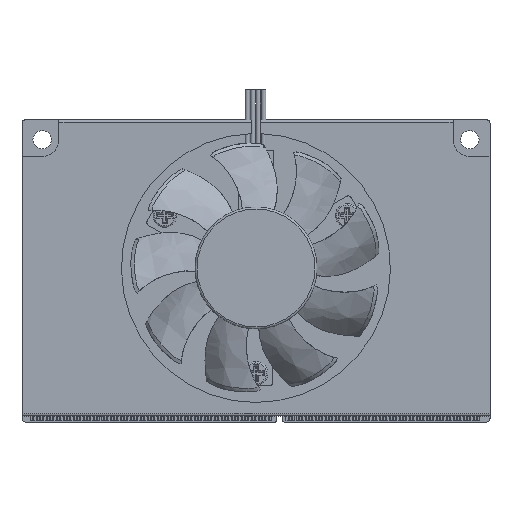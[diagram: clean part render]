
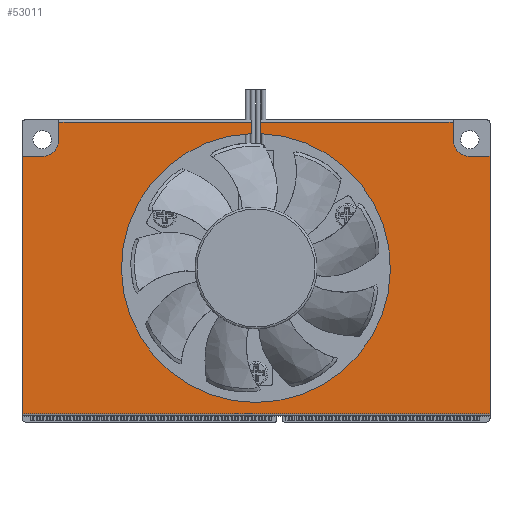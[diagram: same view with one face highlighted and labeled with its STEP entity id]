
A CAD part, top view. The second image highlights one B-rep face of the part: STEP entity #53011.
In plain terms, the highlighted planar face has unit normal (0, 0, 1).
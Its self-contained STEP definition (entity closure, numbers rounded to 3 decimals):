
#2113=CIRCLE('',#56883,2.5);
#2114=CIRCLE('',#56884,20.);
#2115=CIRCLE('',#56885,2.5);
#5096=FACE_OUTER_BOUND('',#8270,.T.);
#8270=EDGE_LOOP('',(#43090,#43091,#43092,#43093,#43094,#43095,#43096,#43097,
#43098,#43099,#43100,#43101,#43102,#43103));
#13075=LINE('',#91837,#19047);
#13077=LINE('',#91843,#19049);
#13078=LINE('',#91845,#19050);
#13079=LINE('',#91849,#19051);
#13080=LINE('',#91851,#19052);
#13081=LINE('',#91853,#19053);
#13082=LINE('',#91857,#19054);
#13083=LINE('',#91858,#19055);
#13084=LINE('',#91860,#19056);
#13085=LINE('',#91864,#19057);
#13086=LINE('',#91865,#19058);
#19047=VECTOR('',#67174,10.);
#19049=VECTOR('',#67180,1000.);
#19050=VECTOR('',#67181,1000.);
#19051=VECTOR('',#67184,1000.);
#19052=VECTOR('',#67185,10.);
#19053=VECTOR('',#67186,1000.);
#19054=VECTOR('',#67189,1000.);
#19055=VECTOR('',#67190,10.);
#19056=VECTOR('',#67191,1000.);
#19057=VECTOR('',#67194,1000.);
#19058=VECTOR('',#67195,1000.);
#24314=VERTEX_POINT('',#91814);
#24323=VERTEX_POINT('',#91834);
#24324=VERTEX_POINT('',#91836);
#24326=VERTEX_POINT('',#91842);
#24327=VERTEX_POINT('',#91844);
#24328=VERTEX_POINT('',#91846);
#24329=VERTEX_POINT('',#91848);
#24330=VERTEX_POINT('',#91850);
#24331=VERTEX_POINT('',#91852);
#24332=VERTEX_POINT('',#91854);
#24333=VERTEX_POINT('',#91856);
#24334=VERTEX_POINT('',#91859);
#24335=VERTEX_POINT('',#91861);
#24336=VERTEX_POINT('',#91863);
#30875=EDGE_CURVE('',#24323,#24324,#13075,.T.);
#30878=EDGE_CURVE('',#24323,#24326,#13077,.T.);
#30879=EDGE_CURVE('',#24326,#24327,#13078,.T.);
#30880=EDGE_CURVE('',#24327,#24328,#2113,.T.);
#30881=EDGE_CURVE('',#24328,#24329,#13079,.T.);
#30882=EDGE_CURVE('',#24330,#24329,#13080,.T.);
#30883=EDGE_CURVE('',#24330,#24331,#13081,.T.);
#30884=EDGE_CURVE('',#24331,#24332,#2114,.T.);
#30885=EDGE_CURVE('',#24332,#24333,#13082,.T.);
#30886=EDGE_CURVE('',#24314,#24333,#13083,.T.);
#30887=EDGE_CURVE('',#24314,#24334,#13084,.T.);
#30888=EDGE_CURVE('',#24334,#24335,#2115,.T.);
#30889=EDGE_CURVE('',#24335,#24336,#13085,.T.);
#30890=EDGE_CURVE('',#24336,#24324,#13086,.T.);
#43090=ORIENTED_EDGE('',*,*,#30875,.F.);
#43091=ORIENTED_EDGE('',*,*,#30878,.T.);
#43092=ORIENTED_EDGE('',*,*,#30879,.T.);
#43093=ORIENTED_EDGE('',*,*,#30880,.T.);
#43094=ORIENTED_EDGE('',*,*,#30881,.T.);
#43095=ORIENTED_EDGE('',*,*,#30882,.F.);
#43096=ORIENTED_EDGE('',*,*,#30883,.T.);
#43097=ORIENTED_EDGE('',*,*,#30884,.T.);
#43098=ORIENTED_EDGE('',*,*,#30885,.T.);
#43099=ORIENTED_EDGE('',*,*,#30886,.F.);
#43100=ORIENTED_EDGE('',*,*,#30887,.T.);
#43101=ORIENTED_EDGE('',*,*,#30888,.T.);
#43102=ORIENTED_EDGE('',*,*,#30889,.T.);
#43103=ORIENTED_EDGE('',*,*,#30890,.T.);
#50125=PLANE('',#56882);
#53011=ADVANCED_FACE('',(#5096),#50125,.T.);
#56882=AXIS2_PLACEMENT_3D('',#91841,#67178,#67179);
#56883=AXIS2_PLACEMENT_3D('',#91847,#67182,#67183);
#56884=AXIS2_PLACEMENT_3D('',#91855,#67187,#67188);
#56885=AXIS2_PLACEMENT_3D('',#91862,#67192,#67193);
#67174=DIRECTION('',(-1.,0.,0.));
#67178=DIRECTION('center_axis',(0.,0.,1.));
#67179=DIRECTION('ref_axis',(0.,-1.,0.));
#67180=DIRECTION('',(0.,1.,0.));
#67181=DIRECTION('',(-1.,0.,0.));
#67182=DIRECTION('center_axis',(0.,0.,-1.));
#67183=DIRECTION('ref_axis',(1.,0.,0.));
#67184=DIRECTION('',(0.,1.,0.));
#67185=DIRECTION('',(1.,0.,0.));
#67186=DIRECTION('',(0.,-1.,0.));
#67187=DIRECTION('center_axis',(0.,0.,-1.));
#67188=DIRECTION('ref_axis',(-1.,0.,0.));
#67189=DIRECTION('',(0.,1.,0.));
#67190=DIRECTION('',(1.,0.,0.));
#67191=DIRECTION('',(0.,-1.,0.));
#67192=DIRECTION('center_axis',(0.,0.,-1.));
#67193=DIRECTION('ref_axis',(1.,0.,0.));
#67194=DIRECTION('',(-1.,0.,0.));
#67195=DIRECTION('',(0.,-1.,0.));
#91814=CARTESIAN_POINT('',(14.699,61.104,18.34));
#91834=CARTESIAN_POINT('',(78.8,17.704,18.34));
#91836=CARTESIAN_POINT('',(9.2,17.704,18.34));
#91837=CARTESIAN_POINT('',(44.,17.704,18.34));
#91841=CARTESIAN_POINT('Origin',(78.8,15.171,18.34));
#91842=CARTESIAN_POINT('',(78.8,56.,18.34));
#91843=CARTESIAN_POINT('',(78.8,15.171,18.34));
#91844=CARTESIAN_POINT('',(75.8,56.,18.34));
#91845=CARTESIAN_POINT('',(78.8,56.,18.34));
#91846=CARTESIAN_POINT('',(73.3,58.5,18.34));
#91847=CARTESIAN_POINT('Origin',(75.8,58.5,18.34));
#91848=CARTESIAN_POINT('',(73.3,61.104,18.34));
#91849=CARTESIAN_POINT('',(73.3,15.171,18.34));
#91850=CARTESIAN_POINT('',(44.6,61.104,18.34));
#91851=CARTESIAN_POINT('',(76.05,61.104,18.34));
#91852=CARTESIAN_POINT('',(44.6,59.387,18.34));
#91853=CARTESIAN_POINT('',(44.6,15.171,18.34));
#91854=CARTESIAN_POINT('',(43.4,59.388,18.34));
#91855=CARTESIAN_POINT('Origin',(43.988,39.396,18.34));
#91856=CARTESIAN_POINT('',(43.4,61.104,18.34));
#91857=CARTESIAN_POINT('',(43.4,15.171,18.34));
#91858=CARTESIAN_POINT('',(76.05,61.104,18.34));
#91859=CARTESIAN_POINT('',(14.699,58.5,18.34));
#91860=CARTESIAN_POINT('',(14.699,60.404,18.34));
#91861=CARTESIAN_POINT('',(12.2,56.,18.34));
#91862=CARTESIAN_POINT('Origin',(12.199,58.5,18.34));
#91863=CARTESIAN_POINT('',(9.2,56.,18.34));
#91864=CARTESIAN_POINT('',(78.8,56.,18.34));
#91865=CARTESIAN_POINT('',(9.2,15.171,18.34));
